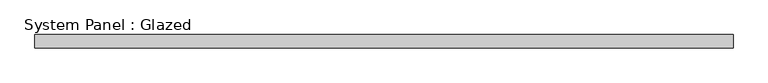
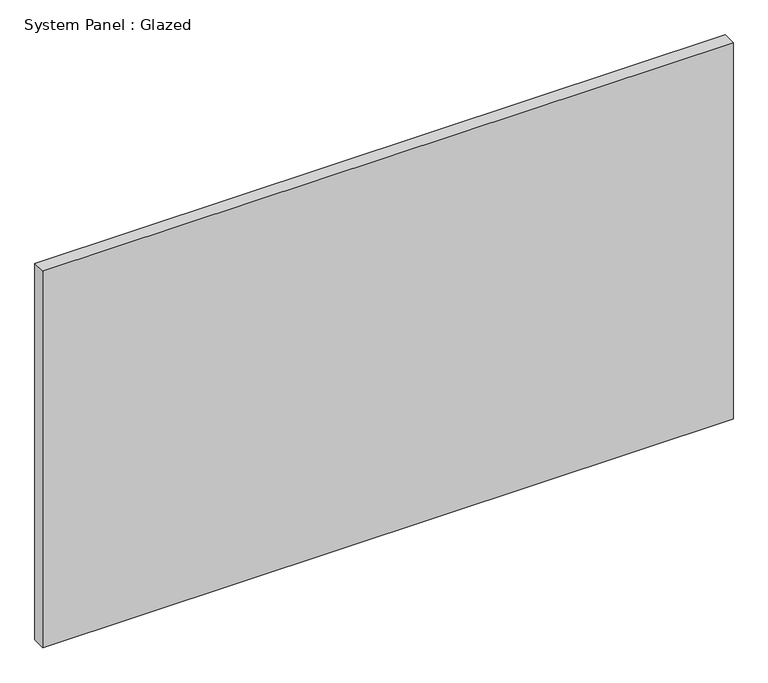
"""IFC4 building model written with IfcOpenShell, lengths in millimetres: plate geometry, System Panel : Glazed."""

from ifc_helpers import new_model, si_unit, origin, origin_with_axes, place, context, project, spatial, polyline, outline, extrude, source, transform, mapped, element, save


def system_panel_glazed_aea009c8(model_context):
    return source(origin(), model_context, "Body", "SweptSolid", [
        extrude(outline(polyline([(656.9445429, 19.05), (-656.9445429, 19.05), (-656.9445429, 44.45), (656.9445429, 44.45), (656.9445429, 19.05)])), origin_with_axes(), (0.0, 0.0, 1.0), 758.2776451),
    ])


if __name__ == "__main__":
    model = new_model("IFC4")
    model_context = context("Model", 3, world=origin())
    ifc_project = project(units=[si_unit("LENGTHUNIT", "METRE", prefix="MILLI")], contexts=[model_context])
    site = spatial("IfcSite", under=ifc_project)
    building = spatial("IfcBuilding", under=site)
    placement = place(None, origin())
    system_panel_glazed_shape = system_panel_glazed_aea009c8(model_context)
    element("IfcPlate", 1, ObjectType="System Panel : Glazed", at=placement, inside=building, context=model_context, shape_type="MappedRepresentation", body=[
        mapped(system_panel_glazed_shape, transform((0.0, 0.0, 0.0), x_axis=(1.0, 0.0, 0.0), y_axis=(0.0, 1.0, 0.0), z_axis=(0.0, 0.0, 1.0))),
    ])
    save(model, "model.ifc")
